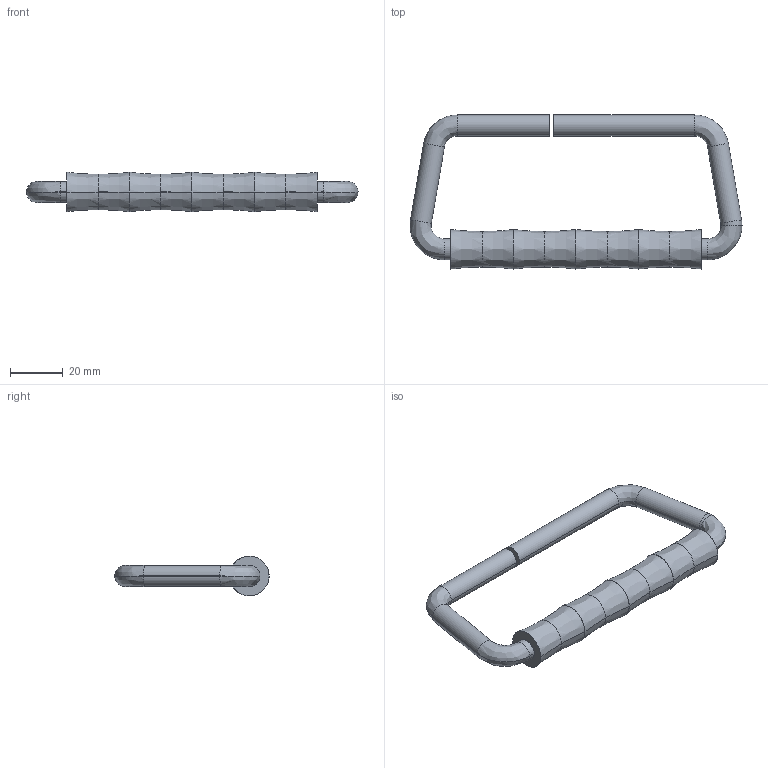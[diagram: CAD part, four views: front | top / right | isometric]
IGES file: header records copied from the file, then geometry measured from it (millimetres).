
Start section: SolidWorks IGES FILE using analytic representation for surfaces
Global section: file name: C:\Documents and Settings\lecoutey\Bureau\PR 312\312.030.00.IGS; native system: SolidWorks 2004 by SolidWorks Corporation; preprocessor: Version 5.3; author: lecoutey; date: 050408.145243; units: millimetre
Bounding box: 126 x 58.5 x 15 mm (x, y, z)
Surface area: 9793.3 mm2 (no closed solid volume)
Topology: 0 solids, 0 shells, 42 faces, 344 edges, 344 vertices
Faces by surface type: bspline 30, revolution 12
